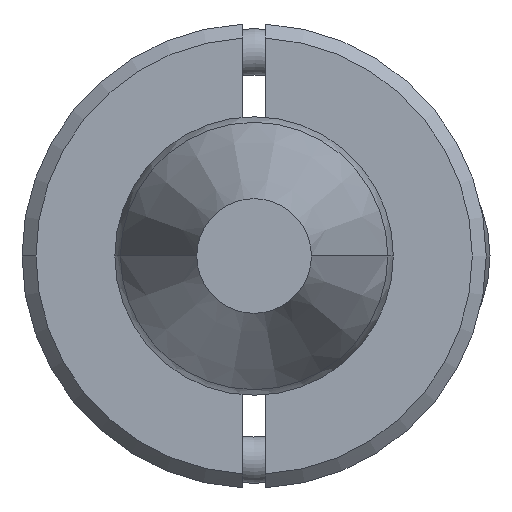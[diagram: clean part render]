
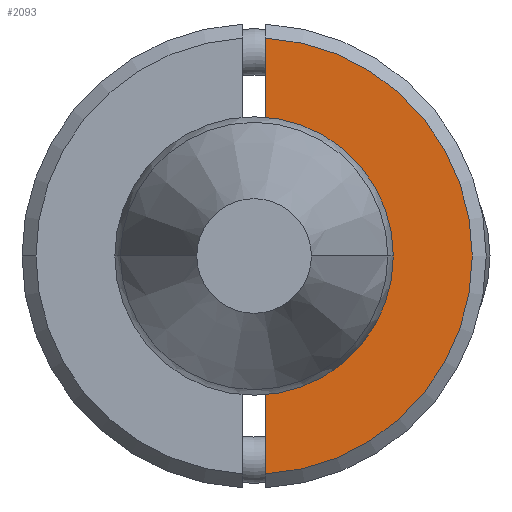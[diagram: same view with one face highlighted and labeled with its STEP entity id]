
A CAD part, front view. The second image highlights one B-rep face of the part: STEP entity #2093.
In plain terms, the highlighted planar face has unit normal (0, -1, 0).
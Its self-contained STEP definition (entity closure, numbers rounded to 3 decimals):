
#56 = AXIS2_PLACEMENT_3D ( 'NONE', #3376, #2061, #2679 ) ;
#59 = FACE_OUTER_BOUND ( 'NONE', #3490, .T. ) ;
#124 = ORIENTED_EDGE ( 'NONE', *, *, #305, .T. ) ;
#153 = DIRECTION ( 'NONE',  ( 0., 0., -1. ) ) ;
#182 = VERTEX_POINT ( 'NONE', #2073 ) ;
#305 = EDGE_CURVE ( 'NONE', #3212, #2583, #2644, .T. ) ;
#330 = AXIS2_PLACEMENT_3D ( 'NONE', #648, #915, #1211 ) ;
#396 = DIRECTION ( 'NONE',  ( 1., 0., 0. ) ) ;
#430 = EDGE_CURVE ( 'NONE', #182, #3212, #1260, .T. ) ;
#520 = ORIENTED_EDGE ( 'NONE', *, *, #532, .F. ) ;
#532 = EDGE_CURVE ( 'NONE', #3729, #2583, #683, .T. ) ;
#622 = PLANE ( 'NONE',  #749 ) ;
#648 = CARTESIAN_POINT ( 'NONE',  ( 0., -6., 0. ) ) ;
#683 = LINE ( 'NONE', #2206, #2325 ) ;
#749 = AXIS2_PLACEMENT_3D ( 'NONE', #3264, #2699, #2734 ) ;
#915 = DIRECTION ( 'NONE',  ( 0., 1., 0. ) ) ;
#1106 = EDGE_CURVE ( 'NONE', #3729, #3521, #2683, .T. ) ;
#1211 = DIRECTION ( 'NONE',  ( 0., 0., -1. ) ) ;
#1255 = CARTESIAN_POINT ( 'NONE',  ( -5., -6., -0.25 ) ) ;
#1260 = CIRCLE ( 'NONE', #330, 2.45 ) ;
#1318 = CARTESIAN_POINT ( 'NONE',  ( 0., -6., 0. ) ) ;
#1533 = DIRECTION ( 'NONE',  ( 1., 0., 0. ) ) ;
#1897 = VECTOR ( 'NONE', #1533, 1000. ) ;
#2061 = DIRECTION ( 'NONE',  ( 0., -1., 0. ) ) ;
#2073 = CARTESIAN_POINT ( 'NONE',  ( 2.437, -6., -0.25 ) ) ;
#2093 = ADVANCED_FACE ( 'NONE', ( #59 ), #622, .T. ) ;
#2206 = CARTESIAN_POINT ( 'NONE',  ( -5., -6., -0.25 ) ) ;
#2301 = CARTESIAN_POINT ( 'NONE',  ( 4.693, -6., -0.25 ) ) ;
#2325 = VECTOR ( 'NONE', #396, 1000. ) ;
#2464 = CARTESIAN_POINT ( 'NONE',  ( 0., -6., -2.45 ) ) ;
#2583 = VERTEX_POINT ( 'NONE', #2695 ) ;
#2644 = CIRCLE ( 'NONE', #2762, 2.45 ) ;
#2679 = DIRECTION ( 'NONE',  ( 0., 0., -1. ) ) ;
#2683 = CIRCLE ( 'NONE', #56, 4.7 ) ;
#2695 = CARTESIAN_POINT ( 'NONE',  ( -2.437, -6., -0.25 ) ) ;
#2699 = DIRECTION ( 'NONE',  ( 0., -1., 0. ) ) ;
#2734 = DIRECTION ( 'NONE',  ( 0., 0., -1. ) ) ;
#2745 = ORIENTED_EDGE ( 'NONE', *, *, #430, .T. ) ;
#2762 = AXIS2_PLACEMENT_3D ( 'NONE', #1318, #2840, #153 ) ;
#2772 = LINE ( 'NONE', #1255, #1897 ) ;
#2801 = EDGE_CURVE ( 'NONE', #182, #3521, #2772, .T. ) ;
#2840 = DIRECTION ( 'NONE',  ( 0., 1., 0. ) ) ;
#2916 = ORIENTED_EDGE ( 'NONE', *, *, #1106, .T. ) ;
#3152 = CARTESIAN_POINT ( 'NONE',  ( -4.693, -6., -0.25 ) ) ;
#3212 = VERTEX_POINT ( 'NONE', #2464 ) ;
#3264 = CARTESIAN_POINT ( 'NONE',  ( -5., -6., 0. ) ) ;
#3300 = ORIENTED_EDGE ( 'NONE', *, *, #2801, .F. ) ;
#3376 = CARTESIAN_POINT ( 'NONE',  ( 0., -6., 0. ) ) ;
#3490 = EDGE_LOOP ( 'NONE', ( #520, #2916, #3300, #2745, #124 ) ) ;
#3521 = VERTEX_POINT ( 'NONE', #2301 ) ;
#3729 = VERTEX_POINT ( 'NONE', #3152 ) ;
